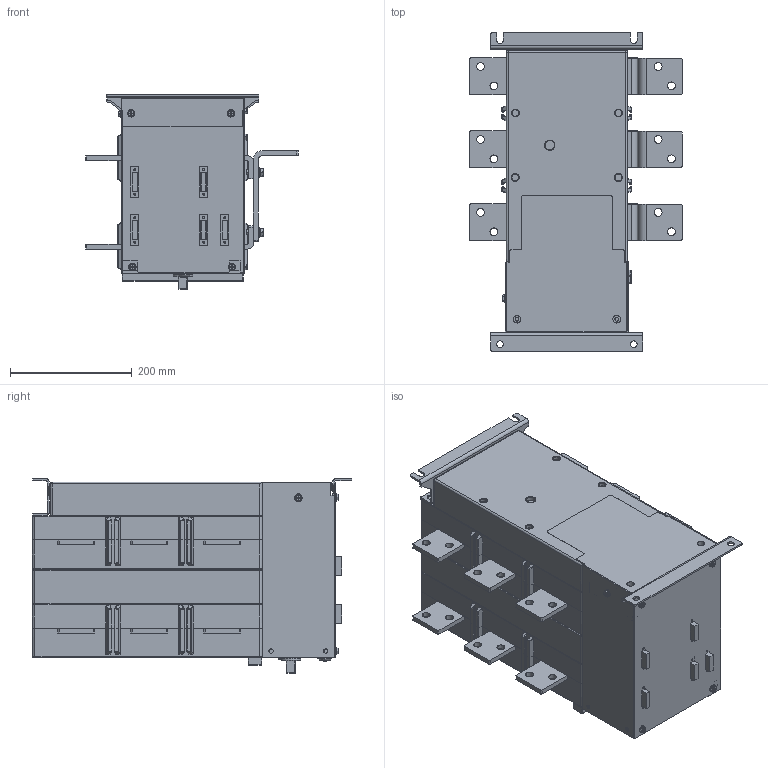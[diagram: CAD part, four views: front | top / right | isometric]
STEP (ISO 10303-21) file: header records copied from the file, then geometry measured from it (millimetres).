
FILE_DESCRIPTION((''),'2;1');
FILE_NAME('NH40-800_1000-3SZ_ASM','2020-11-02T',('shift'),(''),'CREO PARAMETRIC BY PTC INC, 2014500','CREO PARAMETRIC BY PTC INC, 2014500','');
FILE_SCHEMA(('AUTOMOTIVE_DESIGN { 1 0 10303 214 1 1 1 1 }'));
Products named in the file (46): 3P____-52496_4_1_3_AF0_1_1_1; 3P____-51977_2_1_1_1_1_1; 3P____-51963_2_1_1_1_1_1; 3P_________2_1_1_AF0_1_1_1; 3P____-51977_2_1_1_AF0_1_1_1; 3P____-52496_4_1_3_AF1_1_1_1; 3P____-52041_1_1_1_1_1_1; NH40-2000__3P____2019_5_25__AF0_ASM; ANZHUANGJIAO_1_1_1_1_1_1_1_1_1_; SHANGBAN_2_1_1_1_1_1_1_1_AF0_1_; HENGLIANG_1_1_1_1_1_1_1_1_AF0_1; DIJIAO_1_1_1_1_1_1_4_1_2_1_1_1; CEBANLUOSI_1_1_1_1_1_1_1_1_AF0_; CEBANLUOSI_1_1_1_1_1_1_1_1_1_1_; YAOSHI_1_1_1_1_1_1_1_1_AF0_1_1_; HONGZHISHI_1_1_1_1_1_1_2_1__AF0; NH40-2000_3P_2019_5_25__ASM_AF0_ASM; NH40-2000_3P_ASM_1_ASM_1_AF0_AS_ASM; CEBAN-1_1_AF0_1_1_1; CEBAN-2_1_AF0_1_1_1; CHUTOU-1_5_AF0_8_1_1; CHUTOU-1_5_AF1_8_1_1; CHUTOU-1_5_AF2_8_1_1; CHUTOU-1_5_8_1_1; CHUTOU2_2_AF0_5_1_1; CHUTOU2_2_AF1_5_1_1; CHUTOU2_2_AF2_5_1_1; CHUTOU2_2_AF3_5_1_1; CHUTOU2_2_AF4_5_1_1; CHUTOU2_2_AF5_5_1_1; CHUTOU3_2_AF0_8_1_1; CHUTOU3_2_AF1_8_1_2; CHUTOU3_2_AF2_8_1_2; SHUCHUDUANLUOSIM8_1_AF1_1_1_1; SHUCHUDUANLUOSIM8_1_1_1_1; NH40-1600_3P_ASM_ASM_2_AF0_ASM__ASM; 11_AF0_1_1_1; 11_AF1_1_1_1; 11_AF2_1_1_1; 11_AF3_1_1_1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
Assembly tree (63 placements, depth 9):
  NH40-800_1000-3SZ_ASM
    NH40-800-1000-3SZ_ASM_ASM_1_ASM
      NH40-800-1000-3SZ_ASM_1_ASM_1_ASM
        NH40-1250_3P_ASM_ASM_ASM_1_ASM__ASM
          NH40-1600_3P_ASM_ASM_2_AF0_ASM__ASM
            NH40-2000_3P_ASM_1_ASM_1_AF0_AS_ASM
              NH40-2000_3P_2019_5_25__ASM_AF0_ASM
                NH40-2000__3P____2019_5_25__AF0_ASM
                  3P____-52496_4_1_3_AF0_1_1_1
                  3P____-51977_2_1_1_1_1_1
                  3P____-51963_2_1_1_1_1_1
                  3P_________2_1_1_AF0_1_1_1
                  3P____-51977_2_1_1_AF0_1_1_1
                  3P____-52496_4_1_3_AF1_1_1_1
                  3P____-52041_1_1_1_1_1_1
                ANZHUANGJIAO_1_1_1_1_1_1_1_1_1_
                SHANGBAN_2_1_1_1_1_1_1_1_AF0_1_
                HENGLIANG_1_1_1_1_1_1_1_1_AF0_1
                DIJIAO_1_1_1_1_1_1_4_1_2_1_1_1
                CEBANLUOSI_1_1_1_1_1_1_1_1_AF0_
                CEBANLUOSI_1_1_1_1_1_1_1_1_1_1_  x4
                YAOSHI_1_1_1_1_1_1_1_1_AF0_1_1_
                HONGZHISHI_1_1_1_1_1_1_2_1__AF0
            CEBAN-1_1_AF0_1_1_1
            CEBAN-2_1_AF0_1_1_1
            CHUTOU-1_5_AF0_8_1_1
            CHUTOU-1_5_AF1_8_1_1
            CHUTOU-1_5_AF2_8_1_1
            CHUTOU-1_5_8_1_1  x3
            CHUTOU2_2_AF0_5_1_1
            CHUTOU2_2_AF1_5_1_1
            CHUTOU2_2_AF2_5_1_1
            CHUTOU2_2_AF3_5_1_1
            CHUTOU2_2_AF4_5_1_1
            CHUTOU2_2_AF5_5_1_1
            CHUTOU3_2_AF0_8_1_1
            CHUTOU3_2_AF1_8_1_2
            CHUTOU3_2_AF2_8_1_2
            SHUCHUDUANLUOSIM8_1_AF1_1_1_1
            SHUCHUDUANLUOSIM8_1_1_1_1  x11
          11_AF0_1_1_1
          11_AF1_1_1_1
          11_AF2_1_1_1
          11_AF3_1_1_1
          11_AF4_1_1_1
        1122_1_1  x4
Bounding box: 350.01 x 525.06 x 319.84 mm (x, y, z)
Volume: 22380136.3 mm3; surface area: 2261865.7 mm2
Topology: 56 solids, 64 shells, 3885 faces, 9855 edges, 6338 vertices
Faces by surface type: plane 1942, cylinder 1424, bspline 182, torus 171, extrusion 72, sphere 50, cone 44
Entity records: 144373 total; most frequent: CARTESIAN_POINT 35357, ORIENTED_EDGE 17324, DIRECTION 16979, EDGE_CURVE 8662, AXIS2_PLACEMENT_3D 5829, VERTEX_POINT 5586, VECTOR 5321, LINE 5249
